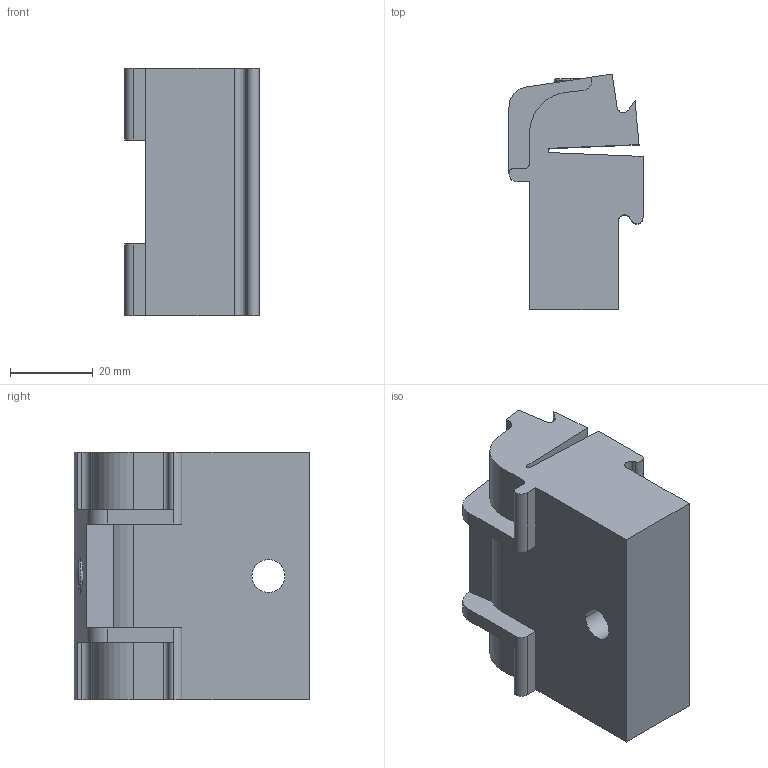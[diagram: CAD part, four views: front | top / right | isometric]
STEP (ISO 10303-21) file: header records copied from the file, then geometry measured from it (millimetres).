
FILE_DESCRIPTION (( 'STEP AP214' ), '1' );
FILE_NAME ('R1 SL1-21.5M.step', '2017-04-05T07:50:10', ( '' ), ( '' ), 'SwSTEP 2.0', 'SolidWorks 2015', '' );
FILE_SCHEMA (( 'AUTOMOTIVE_DESIGN' ));
Length unit declared in the file: millimetre
Products named in the file (1): R1 SL1-21.5M
Bounding box: 32.5 x 57.05 x 60 mm (x, y, z)
Volume: 64307.2 mm3; surface area: 18658.4 mm2
Topology: 1 solids, 1 shells, 97 faces, 254 edges, 168 vertices
Faces by surface type: plane 67, cylinder 28, torus 2
Entity records: 3144 total; most frequent: CARTESIAN_POINT 526, ORIENTED_EDGE 508, DIRECTION 506, EDGE_CURVE 254, VECTOR 194, LINE 194, VERTEX_POINT 168, AXIS2_PLACEMENT_3D 156
